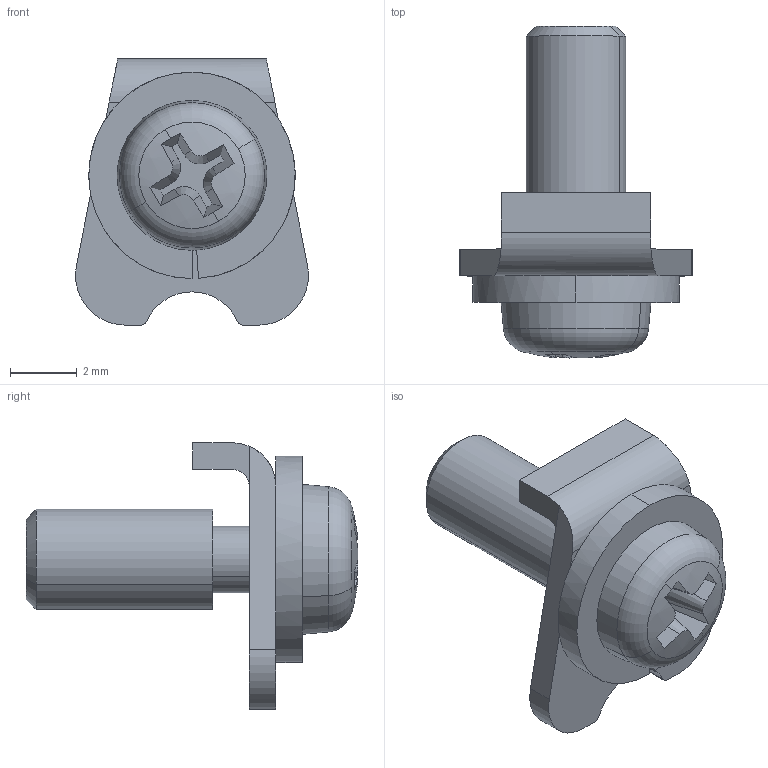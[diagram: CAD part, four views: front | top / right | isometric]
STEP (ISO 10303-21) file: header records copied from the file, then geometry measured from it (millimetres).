
FILE_DESCRIPTION (( 'STEP AP214' ), '1' );
FILE_NAME ('SFN-2.STEP', '2020-12-18T00:57:26', ( '' ), ( '' ), 'SwSTEP 2.0', 'SolidWorks 2019', '' );
FILE_SCHEMA (( 'AUTOMOTIVE_DESIGN' ));
Length unit declared in the file: millimetre
Products named in the file (1): SFN-2
Bounding box: 7 x 9.97 x 8 mm (x, y, z)
Volume: 119.8 mm3; surface area: 274.9 mm2
Topology: 1 solids, 1 shells, 64 faces, 166 edges, 106 vertices
Faces by surface type: plane 35, cylinder 17, cone 8, torus 2, sphere 2
Entity records: 2022 total; most frequent: DIRECTION 364, CARTESIAN_POINT 363, ORIENTED_EDGE 332, EDGE_CURVE 166, AXIS2_PLACEMENT_3D 139, VERTEX_POINT 106, VECTOR 86, LINE 86
